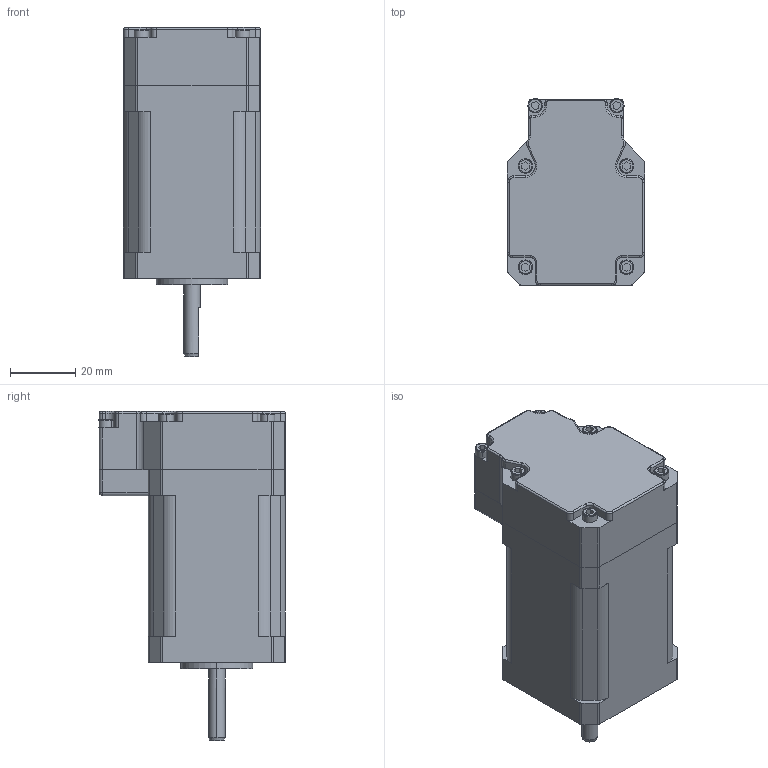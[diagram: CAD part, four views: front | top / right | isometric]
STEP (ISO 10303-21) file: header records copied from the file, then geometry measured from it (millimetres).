
FILE_DESCRIPTION((''),'2;1');
FILE_NAME('QL42HS60_ASM','2021-09-04T15:49:51',('qingl'),(''),'CREO PARAMETRIC BY PTC INC, 2019224','CREO PARAMETRIC BY PTC INC, 2019224','');
FILE_SCHEMA(('AUTOMOTIVE_DESIGN { 1 0 10303 214 1 1 1 1 }'));
Length unit declared in the file: millimetre
Products named in the file (10): ABCD0E94C2B2YBIN_1; ABCD0E94C2B2YBIN_2; ABCD0E94C2B2YBIN_3; ABCD0E94C2B2YBIN_4; ABCD0E94C2B2YBIN_5; ABCD0E94C2B2YBIN_6; ABCD0E94C2B2YBIN_7; ABCD0E94C2B2YBIN_8; ABCD0E94C2B2YBIN_ASM; QL42HS60_ASM
Assembly tree (9 placements, depth 3):
  QL42HS60_ASM
    ABCD0E94C2B2YBIN_ASM
      ABCD0E94C2B2YBIN_1
      ABCD0E94C2B2YBIN_2
      ABCD0E94C2B2YBIN_3
      ABCD0E94C2B2YBIN_4
      ABCD0E94C2B2YBIN_5
      ABCD0E94C2B2YBIN_6
      ABCD0E94C2B2YBIN_7
      ABCD0E94C2B2YBIN_8
Bounding box: 42 x 57.25 x 100.8 mm (x, y, z)
Volume: 142682 mm3; surface area: 23194.6 mm2
Topology: 8 solids, 8 shells, 468 faces, 1229 edges, 795 vertices
Faces by surface type: cylinder 279, plane 134, torus 40, bspline 12, sphere 2, cone 1
Entity records: 23496 total; most frequent: CARTESIAN_POINT 9264, ORIENTED_EDGE 2454, DIRECTION 2171, EDGE_CURVE 1227, AXIS2_PLACEMENT_3D 803, VERTEX_POINT 795, VECTOR 565, LINE 565
